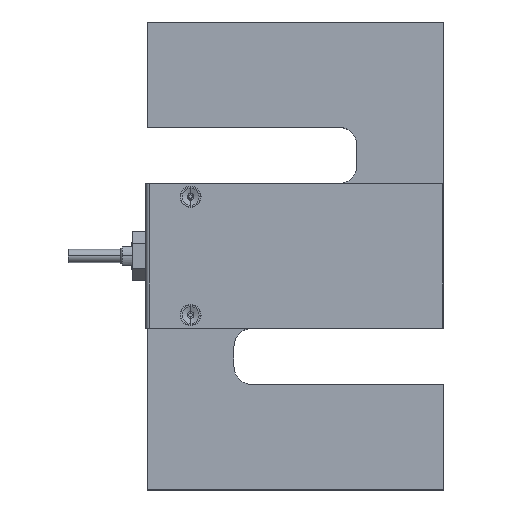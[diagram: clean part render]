
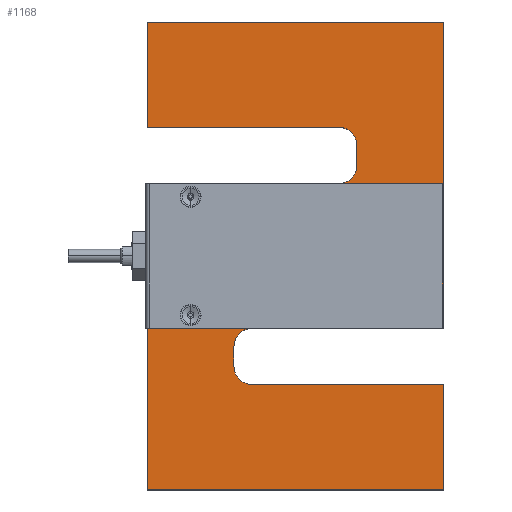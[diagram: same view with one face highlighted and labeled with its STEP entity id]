
A CAD part, top view. The second image highlights one B-rep face of the part: STEP entity #1168.
In plain terms, the highlighted planar face has unit normal (0, 0, 1).
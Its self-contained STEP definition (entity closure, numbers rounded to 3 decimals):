
#25 = CARTESIAN_POINT ( 'NONE',  ( 16.4, 27.5, 43. ) ) ;
#39 = CARTESIAN_POINT ( 'NONE',  ( 16.4, 42., 43. ) ) ;
#40 = DIRECTION ( 'NONE',  ( 0., 0., -1. ) ) ;
#41 = DIRECTION ( 'NONE',  ( 1., 0., 0. ) ) ;
#43 = LINE ( 'NONE', #44, #3710 ) ;
#44 = CARTESIAN_POINT ( 'NONE',  ( 16.4, 49., 43. ) ) ;
#45 = DIRECTION ( 'NONE',  ( 1., 0., 0. ) ) ;
#59 = LINE ( 'NONE', #25, #3769 ) ;
#63 = DIRECTION ( 'NONE',  ( -1., 0., 0. ) ) ;
#116 = CARTESIAN_POINT ( 'NONE',  ( 23.4, 42., 43. ) ) ;
#117 = CARTESIAN_POINT ( 'NONE',  ( 16.4, 34.5, 43. ) ) ;
#118 = DIRECTION ( 'NONE',  ( 0., 0., -1. ) ) ;
#119 = DIRECTION ( 'NONE',  ( 1., 0., 0. ) ) ;
#121 = LINE ( 'NONE', #116, #3732 ) ;
#125 = DIRECTION ( 'NONE',  ( 0., -1., 0. ) ) ;
#142 = LINE ( 'NONE', #143, #3804 ) ;
#143 = CARTESIAN_POINT ( 'NONE',  ( -56.4, 27.5, 43. ) ) ;
#144 = DIRECTION ( 'NONE',  ( 0., -1., 0. ) ) ;
#150 = LINE ( 'NONE', #151, #3809 ) ;
#151 = CARTESIAN_POINT ( 'NONE',  ( -56.4, -89., 43. ) ) ;
#152 = DIRECTION ( 'NONE',  ( 1., 0., 0. ) ) ;
#153 = CARTESIAN_POINT ( 'NONE',  ( 0., 0., 43. ) ) ;
#154 = DIRECTION ( 'NONE',  ( 0., 0., 1. ) ) ;
#155 = DIRECTION ( 'NONE',  ( 1., 0., 0. ) ) ;
#890 = EDGE_LOOP ( 'NONE', ( #2305, #2306, #2307, #2308, #2309, #2310, #2311, #2312, #2313, #2314, #2315, #2316, #2317, #2318, #2319, #2320 ) ) ;
#1045 = EDGE_CURVE ( 'NONE', #2676, #2692, #3726, .T. ) ;
#1047 = EDGE_CURVE ( 'NONE', #2695, #2676, #43, .T. ) ;
#1053 = EDGE_CURVE ( 'NONE', #2733, #2735, #59, .T. ) ;
#1071 = EDGE_CURVE ( 'NONE', #2738, #2733, #3750, .T. ) ;
#1074 = EDGE_CURVE ( 'NONE', #2692, #2738, #121, .T. ) ;
#1080 = EDGE_CURVE ( 'NONE', #2735, #2734, #142, .T. ) ;
#1083 = EDGE_CURVE ( 'NONE', #2734, #2655, #150, .T. ) ;
#1084 = EDGE_CURVE ( 'NONE', #2586, #2557, #3807, .T. ) ;
#1168 = ADVANCED_FACE ( 'NONE', ( #4163, #4154 ), #4167, .T. ) ;
#1276 = CARTESIAN_POINT ( 'NONE',  ( -17., 0., 43. ) ) ;
#1282 = CARTESIAN_POINT ( 'NONE',  ( -16.4, -49., 43. ) ) ;
#1305 = CARTESIAN_POINT ( 'NONE',  ( 17., 0., 43. ) ) ;
#1341 = CARTESIAN_POINT ( 'NONE',  ( 56.4, -49., 43. ) ) ;
#1374 = CARTESIAN_POINT ( 'NONE',  ( 56.4, -89., 43. ) ) ;
#1395 = CARTESIAN_POINT ( 'NONE',  ( 16.4, 49., 43. ) ) ;
#1398 = CARTESIAN_POINT ( 'NONE',  ( -56.4, 89., 43. ) ) ;
#1399 = CARTESIAN_POINT ( 'NONE',  ( 56.4, 89., 43. ) ) ;
#1400 = CARTESIAN_POINT ( 'NONE',  ( -16.4, -27.5, 43. ) ) ;
#1401 = CARTESIAN_POINT ( 'NONE',  ( -23.4, -34.5, 43. ) ) ;
#1404 = CARTESIAN_POINT ( 'NONE',  ( 56.4, -27.5, 43. ) ) ;
#1408 = CARTESIAN_POINT ( 'NONE',  ( -23.4, -42., 43. ) ) ;
#1411 = CARTESIAN_POINT ( 'NONE',  ( 23.4, 42., 43. ) ) ;
#1414 = CARTESIAN_POINT ( 'NONE',  ( -56.4, 49., 43. ) ) ;
#1452 = CARTESIAN_POINT ( 'NONE',  ( 16.4, 27.5, 43. ) ) ;
#1453 = CARTESIAN_POINT ( 'NONE',  ( -56.4, -89., 43. ) ) ;
#1454 = CARTESIAN_POINT ( 'NONE',  ( -56.4, 27.5, 43. ) ) ;
#1457 = CARTESIAN_POINT ( 'NONE',  ( 23.4, 34.5, 43. ) ) ;
#2076 = LINE ( 'NONE', #2089, #3207 ) ;
#2078 = CARTESIAN_POINT ( 'NONE',  ( 0., 0., 43. ) ) ;
#2079 = DIRECTION ( 'NONE',  ( 0., 0., 1. ) ) ;
#2080 = DIRECTION ( 'NONE',  ( 1., 0., 0. ) ) ;
#2089 = CARTESIAN_POINT ( 'NONE',  ( 56.4, -49., 43. ) ) ;
#2090 = DIRECTION ( 'NONE',  ( 0., 1., 0. ) ) ;
#2095 = LINE ( 'NONE', #2104, #3206 ) ;
#2104 = CARTESIAN_POINT ( 'NONE',  ( -16.4, -49., 43. ) ) ;
#2105 = DIRECTION ( 'NONE',  ( -1., 0., 0. ) ) ;
#2113 = LINE ( 'NONE', #2122, #3177 ) ;
#2114 = CARTESIAN_POINT ( 'NONE',  ( -16.4, -42., 43. ) ) ;
#2115 = DIRECTION ( 'NONE',  ( 0., 0., -1. ) ) ;
#2116 = DIRECTION ( 'NONE',  ( 1., 0., 0. ) ) ;
#2122 = CARTESIAN_POINT ( 'NONE',  ( -23.4, -34.5, 43. ) ) ;
#2123 = DIRECTION ( 'NONE',  ( 0., 1., 0. ) ) ;
#2130 = LINE ( 'NONE', #2149, #3138 ) ;
#2131 = LINE ( 'NONE', #2140, #3166 ) ;
#2132 = CARTESIAN_POINT ( 'NONE',  ( -16.4, -34.5, 43. ) ) ;
#2133 = DIRECTION ( 'NONE',  ( 0., 0., -1. ) ) ;
#2134 = DIRECTION ( 'NONE',  ( 1., 0., 0. ) ) ;
#2140 = CARTESIAN_POINT ( 'NONE',  ( -16.4, -27.5, 43. ) ) ;
#2141 = DIRECTION ( 'NONE',  ( 1., 0., 0. ) ) ;
#2149 = CARTESIAN_POINT ( 'NONE',  ( 56.4, 89., 43. ) ) ;
#2150 = DIRECTION ( 'NONE',  ( 0., 1., 0. ) ) ;
#2151 = LINE ( 'NONE', #2170, #3155 ) ;
#2152 = LINE ( 'NONE', #2161, #3143 ) ;
#2161 = CARTESIAN_POINT ( 'NONE',  ( -56.4, 89., 43. ) ) ;
#2162 = DIRECTION ( 'NONE',  ( -1., 0., 0. ) ) ;
#2170 = CARTESIAN_POINT ( 'NONE',  ( -56.4, 89., 43. ) ) ;
#2171 = DIRECTION ( 'NONE',  ( 0., -1., 0. ) ) ;
#2234 = AXIS2_PLACEMENT_3D ( 'NONE', #4161, #4158, #4171 ) ;
#2303 = ORIENTED_EDGE ( 'NONE', *, *, #1084, .F. ) ;
#2304 = ORIENTED_EDGE ( 'NONE', *, *, #4121, .F. ) ;
#2305 = ORIENTED_EDGE ( 'NONE', *, *, #4130, .T. ) ;
#2306 = ORIENTED_EDGE ( 'NONE', *, *, #4140, .T. ) ;
#2307 = ORIENTED_EDGE ( 'NONE', *, *, #4146, .T. ) ;
#2308 = ORIENTED_EDGE ( 'NONE', *, *, #4153, .T. ) ;
#2309 = ORIENTED_EDGE ( 'NONE', *, *, #4159, .T. ) ;
#2310 = ORIENTED_EDGE ( 'NONE', *, *, #4166, .T. ) ;
#2311 = ORIENTED_EDGE ( 'NONE', *, *, #4172, .T. ) ;
#2312 = ORIENTED_EDGE ( 'NONE', *, *, #4181, .T. ) ;
#2313 = ORIENTED_EDGE ( 'NONE', *, *, #4187, .T. ) ;
#2314 = ORIENTED_EDGE ( 'NONE', *, *, #1047, .T. ) ;
#2315 = ORIENTED_EDGE ( 'NONE', *, *, #1045, .T. ) ;
#2316 = ORIENTED_EDGE ( 'NONE', *, *, #1074, .T. ) ;
#2317 = ORIENTED_EDGE ( 'NONE', *, *, #1071, .T. ) ;
#2318 = ORIENTED_EDGE ( 'NONE', *, *, #1053, .T. ) ;
#2319 = ORIENTED_EDGE ( 'NONE', *, *, #1080, .T. ) ;
#2320 = ORIENTED_EDGE ( 'NONE', *, *, #1083, .T. ) ;
#2557 = VERTEX_POINT ( 'NONE', #1276 ) ;
#2563 = VERTEX_POINT ( 'NONE', #1282 ) ;
#2586 = VERTEX_POINT ( 'NONE', #1305 ) ;
#2622 = VERTEX_POINT ( 'NONE', #1341 ) ;
#2655 = VERTEX_POINT ( 'NONE', #1374 ) ;
#2676 = VERTEX_POINT ( 'NONE', #1395 ) ;
#2679 = VERTEX_POINT ( 'NONE', #1398 ) ;
#2680 = VERTEX_POINT ( 'NONE', #1399 ) ;
#2681 = VERTEX_POINT ( 'NONE', #1400 ) ;
#2682 = VERTEX_POINT ( 'NONE', #1401 ) ;
#2685 = VERTEX_POINT ( 'NONE', #1404 ) ;
#2689 = VERTEX_POINT ( 'NONE', #1408 ) ;
#2692 = VERTEX_POINT ( 'NONE', #1411 ) ;
#2695 = VERTEX_POINT ( 'NONE', #1414 ) ;
#2733 = VERTEX_POINT ( 'NONE', #1452 ) ;
#2734 = VERTEX_POINT ( 'NONE', #1453 ) ;
#2735 = VERTEX_POINT ( 'NONE', #1454 ) ;
#2738 = VERTEX_POINT ( 'NONE', #1457 ) ;
#3064 = EDGE_LOOP ( 'NONE', ( #2303, #2304 ) ) ;
#3136 = AXIS2_PLACEMENT_3D ( 'NONE', #2132, #2133, #2134 ) ;
#3138 = VECTOR ( 'NONE', #2150, 1000. ) ;
#3143 = VECTOR ( 'NONE', #2162, 1000. ) ;
#3155 = VECTOR ( 'NONE', #2171, 1000. ) ;
#3166 = VECTOR ( 'NONE', #2141, 1000. ) ;
#3169 = CIRCLE ( 'NONE', #3136, 7. ) ;
#3172 = AXIS2_PLACEMENT_3D ( 'NONE', #2114, #2115, #2116 ) ;
#3177 = VECTOR ( 'NONE', #2123, 1000. ) ;
#3188 = CIRCLE ( 'NONE', #3172, 7. ) ;
#3206 = VECTOR ( 'NONE', #2105, 1000. ) ;
#3207 = VECTOR ( 'NONE', #2090, 1000. ) ;
#3212 = AXIS2_PLACEMENT_3D ( 'NONE', #2078, #2079, #2080 ) ;
#3215 = CIRCLE ( 'NONE', #3212, 17. ) ;
#3710 = VECTOR ( 'NONE', #45, 1000. ) ;
#3726 = CIRCLE ( 'NONE', #3796, 7. ) ;
#3732 = VECTOR ( 'NONE', #125, 1000. ) ;
#3746 = AXIS2_PLACEMENT_3D ( 'NONE', #117, #118, #119 ) ;
#3750 = CIRCLE ( 'NONE', #3746, 7. ) ;
#3769 = VECTOR ( 'NONE', #63, 1000. ) ;
#3796 = AXIS2_PLACEMENT_3D ( 'NONE', #39, #40, #41 ) ;
#3804 = VECTOR ( 'NONE', #144, 1000. ) ;
#3807 = CIRCLE ( 'NONE', #3808, 17. ) ;
#3808 = AXIS2_PLACEMENT_3D ( 'NONE', #153, #154, #155 ) ;
#3809 = VECTOR ( 'NONE', #152, 1000. ) ;
#4121 = EDGE_CURVE ( 'NONE', #2557, #2586, #3215, .T. ) ;
#4130 = EDGE_CURVE ( 'NONE', #2655, #2622, #2076, .T. ) ;
#4140 = EDGE_CURVE ( 'NONE', #2622, #2563, #2095, .T. ) ;
#4146 = EDGE_CURVE ( 'NONE', #2563, #2689, #3188, .T. ) ;
#4153 = EDGE_CURVE ( 'NONE', #2689, #2682, #2113, .T. ) ;
#4154 = FACE_OUTER_BOUND ( 'NONE', #890, .T. ) ;
#4158 = DIRECTION ( 'NONE',  ( 0., 0., 1. ) ) ;
#4159 = EDGE_CURVE ( 'NONE', #2682, #2681, #3169, .T. ) ;
#4161 = CARTESIAN_POINT ( 'NONE',  ( 16.4, 34.5, 43. ) ) ;
#4163 = FACE_BOUND ( 'NONE', #3064, .T. ) ;
#4166 = EDGE_CURVE ( 'NONE', #2681, #2685, #2131, .T. ) ;
#4167 = PLANE ( 'NONE',  #2234 ) ;
#4171 = DIRECTION ( 'NONE',  ( 1., 0., 0. ) ) ;
#4172 = EDGE_CURVE ( 'NONE', #2685, #2680, #2130, .T. ) ;
#4181 = EDGE_CURVE ( 'NONE', #2680, #2679, #2152, .T. ) ;
#4187 = EDGE_CURVE ( 'NONE', #2679, #2695, #2151, .T. ) ;
